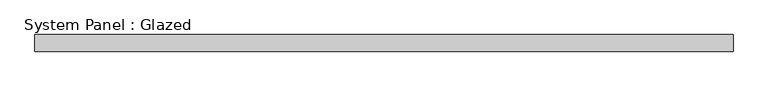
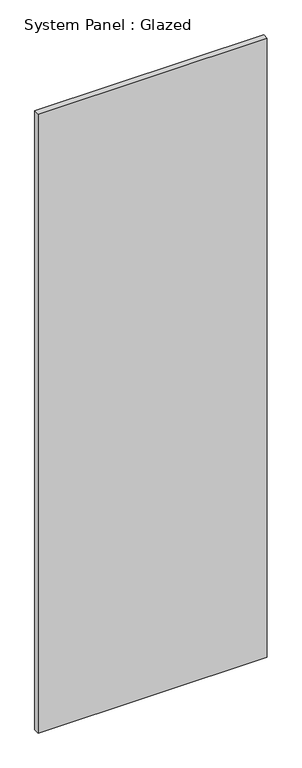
"""IFC4 building model written with IfcOpenShell, lengths in millimetres: plate geometry, System Panel : Glazed."""

from ifc_helpers import new_model, si_unit, origin, origin_with_axes, place, context, project, spatial, polyline, outline, extrude, source, transform, mapped, element, save


def system_panel_glazed_bed50b64(model_context):
    return source(origin(), model_context, "Body", "SweptSolid", [
        extrude(outline(polyline([(512.5, -49.5), (-512.5, -49.5), (-512.5, -24.5), (512.5, -24.5), (512.5, -49.5)])), origin_with_axes(), (0.0, 0.0, 1.0), 2925.0),
    ])


if __name__ == "__main__":
    model = new_model("IFC4")
    model_context = context("Model", 3, world=origin())
    ifc_project = project(units=[si_unit("LENGTHUNIT", "METRE", prefix="MILLI")], contexts=[model_context])
    site = spatial("IfcSite", under=ifc_project)
    building = spatial("IfcBuilding", under=site)
    placement = place(None, origin())
    system_panel_glazed_shape = system_panel_glazed_bed50b64(model_context)
    element("IfcPlate", 1, ObjectType="System Panel : Glazed", at=placement, inside=building, context=model_context, shape_type="MappedRepresentation", body=[
        mapped(system_panel_glazed_shape, transform((0.0, 0.0, 0.0), x_axis=(1.0, 0.0, 0.0), y_axis=(0.0, 1.0, 0.0), z_axis=(0.0, 0.0, 1.0))),
    ])
    save(model, "model.ifc")
